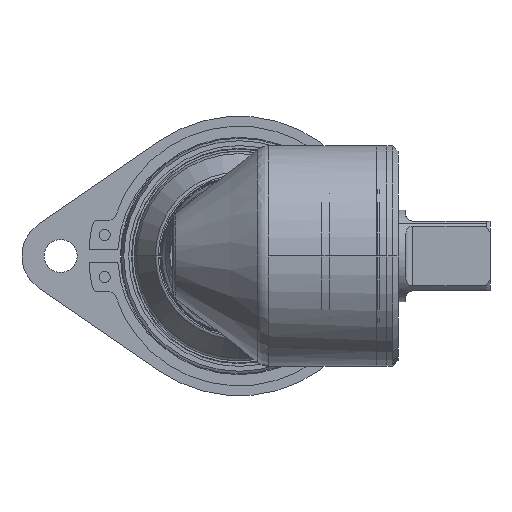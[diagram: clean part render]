
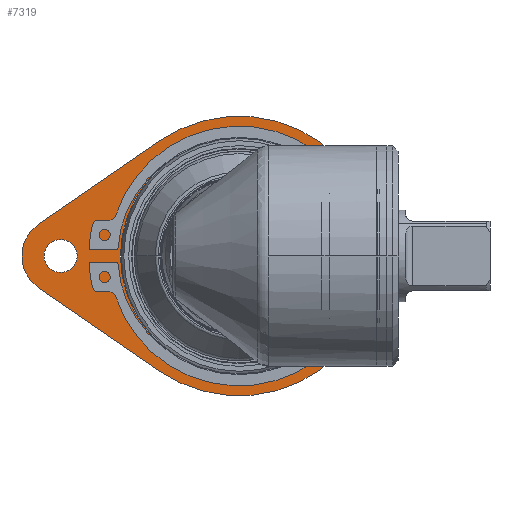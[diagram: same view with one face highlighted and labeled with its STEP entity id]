
A CAD part, left-side view. The second image highlights one B-rep face of the part: STEP entity #7319.
In plain terms, the highlighted planar face has unit normal (-1, 0, 0) as drawn and (0, 0, -1) by its records, which use the part's own axes.
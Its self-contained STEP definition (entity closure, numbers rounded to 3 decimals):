
#7152=CARTESIAN_POINT('',(0.,0.,0.));
#7153=DIRECTION('',(0.,0.,-1.));
#7154=DIRECTION('',(1.,0.,0.));
#7155=AXIS2_PLACEMENT_3D('',#7152,#7153,#7154);
#7157=CARTESIAN_POINT('',(0.,0.,0.));
#7158=DIRECTION('',(0.,0.,-1.));
#7159=DIRECTION('',(-1.,0.,0.));
#7160=AXIS2_PLACEMENT_3D('',#7157,#7158,#7159);
#7162=CARTESIAN_POINT('',(0.,48.5,0.));
#7163=DIRECTION('',(0.,0.,-1.));
#7164=DIRECTION('',(1.,0.,0.));
#7165=AXIS2_PLACEMENT_3D('',#7162,#7163,#7164);
#7167=CARTESIAN_POINT('',(0.,48.5,0.));
#7168=DIRECTION('',(0.,0.,-1.));
#7169=DIRECTION('',(-1.,0.,0.));
#7170=AXIS2_PLACEMENT_3D('',#7167,#7168,#7169);
#7172=CARTESIAN_POINT('',(0.,0.,0.));
#7173=DIRECTION('',(0.,0.,1.));
#7174=DIRECTION('',(-0.824,0.567,0.));
#7175=AXIS2_PLACEMENT_3D('',#7172,#7173,#7174);
#7177=DIRECTION('',(-0.567,0.824,0.));
#7178=VECTOR('',#7177,39.95);
#7179=CARTESIAN_POINT('',(31.301,21.546,0.));
#7180=LINE('',#7179,#7178);
#7181=CARTESIAN_POINT('',(0.,48.5,0.));
#7182=DIRECTION('',(0.,0.,1.));
#7183=DIRECTION('',(0.824,0.567,0.));
#7184=AXIS2_PLACEMENT_3D('',#7181,#7182,#7183);
#7186=DIRECTION('',(-0.567,-0.824,0.));
#7187=VECTOR('',#7186,39.95);
#7188=CARTESIAN_POINT('',(-8.649,54.454,0.));
#7189=LINE('',#7188,#7187);
#7260=CARTESIAN_POINT('',(32.25,0.,0.));
#7261=CARTESIAN_POINT('',(-32.25,0.,0.));
#7262=VERTEX_POINT('',#7260);
#7263=VERTEX_POINT('',#7261);
#7264=CARTESIAN_POINT('',(4.5,48.5,0.));
#7265=CARTESIAN_POINT('',(-4.5,48.5,0.));
#7266=VERTEX_POINT('',#7264);
#7267=VERTEX_POINT('',#7265);
#7268=CARTESIAN_POINT('',(-31.301,21.546,0.));
#7269=CARTESIAN_POINT('',(31.301,21.546,0.));
#7270=VERTEX_POINT('',#7268);
#7271=VERTEX_POINT('',#7269);
#7272=CARTESIAN_POINT('',(8.649,54.454,0.));
#7273=VERTEX_POINT('',#7272);
#7274=CARTESIAN_POINT('',(-8.649,54.454,0.));
#7275=VERTEX_POINT('',#7274);
#7292=CARTESIAN_POINT('',(0.,0.,0.));
#7293=DIRECTION('',(0.,0.,1.));
#7294=DIRECTION('',(1.,0.,0.));
#7295=AXIS2_PLACEMENT_3D('',#7292,#7293,#7294);
#7296=PLANE('',#7295);
#7298=ORIENTED_EDGE('',*,*,#7297,.T.);
#7300=ORIENTED_EDGE('',*,*,#7299,.T.);
#7302=ORIENTED_EDGE('',*,*,#7301,.T.);
#7304=ORIENTED_EDGE('',*,*,#7303,.T.);
#7305=EDGE_LOOP('',(#7298,#7300,#7302,#7304));
#7306=FACE_OUTER_BOUND('',#7305,.F.);
#7308=ORIENTED_EDGE('',*,*,#7307,.T.);
#7310=ORIENTED_EDGE('',*,*,#7309,.T.);
#7311=EDGE_LOOP('',(#7308,#7310));
#7312=FACE_BOUND('',#7311,.F.);
#7314=ORIENTED_EDGE('',*,*,#7313,.T.);
#7316=ORIENTED_EDGE('',*,*,#7315,.T.);
#7317=EDGE_LOOP('',(#7314,#7316));
#7318=FACE_BOUND('',#7317,.F.);
#7319=ADVANCED_FACE('',(#7306,#7312,#7318),#7296,.F.);
#7156=CIRCLE('',#7155,32.25);
#7161=CIRCLE('',#7160,32.25);
#7166=CIRCLE('',#7165,4.5);
#7171=CIRCLE('',#7170,4.5);
#7176=CIRCLE('',#7175,38.);
#7185=CIRCLE('',#7184,10.5);
#7297=EDGE_CURVE('',#7270,#7271,#7176,.T.);
#7299=EDGE_CURVE('',#7271,#7273,#7180,.T.);
#7301=EDGE_CURVE('',#7273,#7275,#7185,.T.);
#7303=EDGE_CURVE('',#7275,#7270,#7189,.T.);
#7307=EDGE_CURVE('',#7262,#7263,#7156,.T.);
#7309=EDGE_CURVE('',#7263,#7262,#7161,.T.);
#7313=EDGE_CURVE('',#7266,#7267,#7166,.T.);
#7315=EDGE_CURVE('',#7267,#7266,#7171,.T.);
